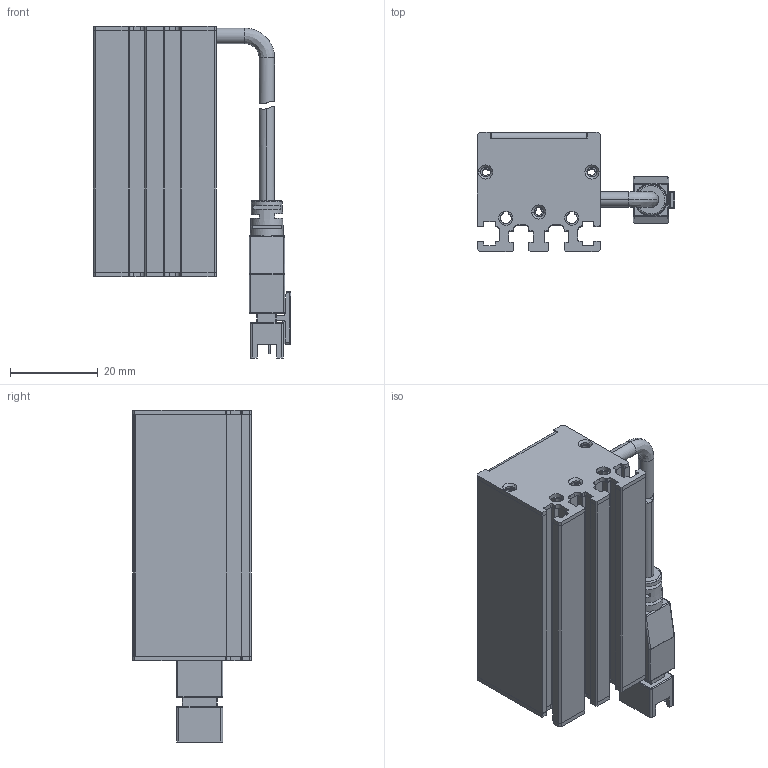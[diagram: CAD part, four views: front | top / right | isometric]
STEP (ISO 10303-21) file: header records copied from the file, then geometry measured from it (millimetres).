
FILE_DESCRIPTION (( 'STEP AP203' ), '1' );
FILE_NAME ('CST-2BS5728-¼òÒ×3DÍ¼.STEP', '2021-06-15T06:32:49', ( '' ), ( '' ), 'SwSTEP 2.0', 'SolidWorks 2018', '' );
FILE_SCHEMA (( 'CONFIG_CONTROL_DESIGN' ));
Length unit declared in the file: millimetre
Products named in the file (1): CST-2BS5728-潠眢3D芞
Bounding box: 44.93 x 27 x 75.48 mm (x, y, z)
Surface area: 26292.4 mm2 (no closed solid volume)
Topology: 0 solids, 9 shells, 659 faces, 1856 edges, 1200 vertices
Faces by surface type: plane 376, cylinder 233, bspline 28, cone 16, torus 6
Entity records: 21810 total; most frequent: CARTESIAN_POINT 4573, ORIENTED_EDGE 3633, DIRECTION 3562, EDGE_CURVE 1840, VECTOR 1276, LINE 1276, VERTEX_POINT 1200, AXIS2_PLACEMENT_3D 1143
